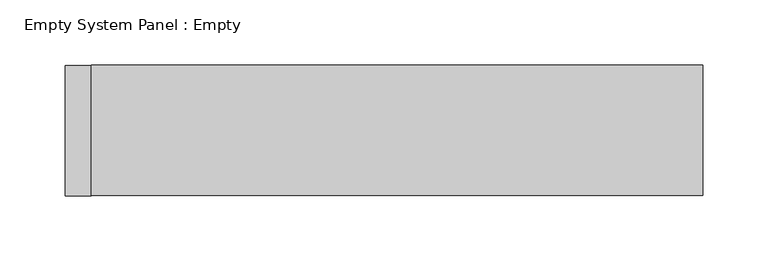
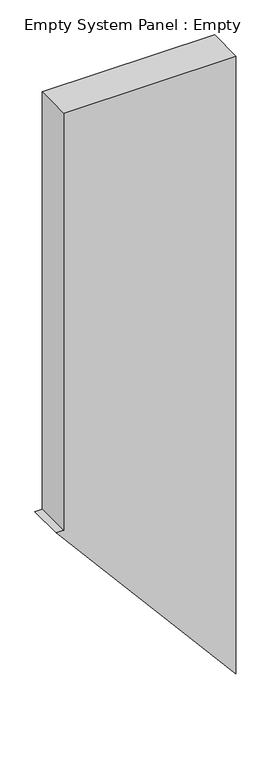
"""IFC4 building model written with IfcOpenShell, lengths in millimetres: plate geometry, Empty System Panel : Empty."""

from ifc_helpers import new_model, si_unit, frame, origin, place, context, project, spatial, polyline, outline, extrude, source, transform, mapped, element, save


def empty_system_panel_empty_cb7d1dd7(model_context):
    return source(origin(), model_context, "Body", "SweptSolid", [
        extrude(outline(polyline([(575.7931565, -244.1589868), (0.0, 244.1589868), (1774.5448978, 244.1589868), (1774.5448978, -224.1589868), (575.7931565, -224.1589868), (575.7931565, -244.1589868)])), frame((0.0, -50.0, 0.0), z_axis=(0.0, 1.0, 0.0), x_axis=(0.0, 0.0, 1.0)), (0.0, 0.0, 1.0), 100.0),
    ])


if __name__ == "__main__":
    model = new_model("IFC4")
    model_context = context("Model", 3, world=origin())
    ifc_project = project(units=[si_unit("LENGTHUNIT", "METRE", prefix="MILLI")], contexts=[model_context])
    site = spatial("IfcSite", under=ifc_project)
    building = spatial("IfcBuilding", under=site)
    placement = place(None, origin())
    empty_system_panel_empty_shape = empty_system_panel_empty_cb7d1dd7(model_context)
    element("IfcPlate", 1, ObjectType="Empty System Panel : Empty", at=placement, inside=building, context=model_context, shape_type="MappedRepresentation", body=[
        mapped(empty_system_panel_empty_shape, transform((0.0, 0.0, 0.0), x_axis=(1.0, 0.0, 0.0), y_axis=(0.0, 1.0, 0.0), z_axis=(0.0, 0.0, 1.0))),
    ])
    save(model, "model.ifc")
